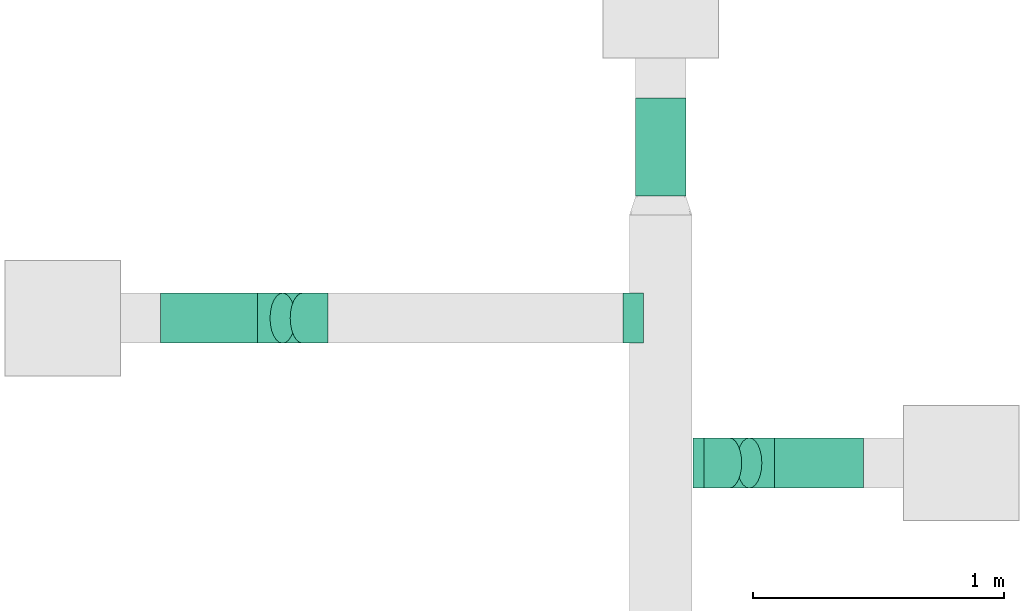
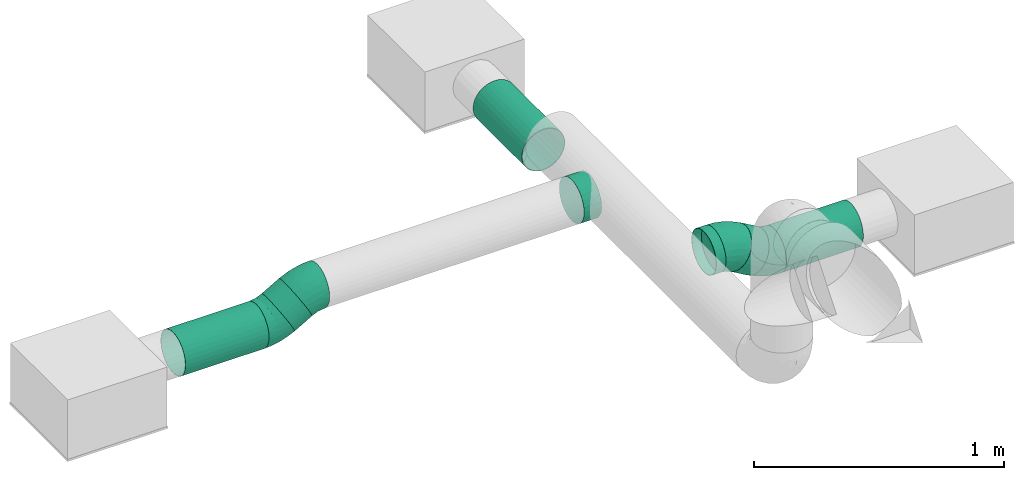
# One storey, part 23 of 31: 6 flow segments, 5 flow fittings.
"""IFC2X3 building model written with IfcOpenShell, lengths in millimetres."""

import ifcopenshell
import ifcopenshell.guid

model = None  # the IFC model being written
_history = None  # IfcOwnerHistory: only IFC2X3 demands one
_inside = {}  # id of a spatial element -> (the spatial element, [elements in it])
_under = {}  # id of a project, library or spatial element -> (it, [spatial elements below it])
_declared = {}  # id of a project -> (the project, [libraries it declares])
_typed = {}  # id of a type object -> (the type object, [elements of that type])
_made_of = {}  # id of a material, layer set ... -> (it, [elements and type objects made of it])


def new_model(schema):
    """Start an empty IFC model of exactly this schema.

    Asked for "IFC4X3", IfcOpenShell would pick the latest addendum, in which some entities
    have other attributes; the version numbers below select the first issue.
    IFC2X3 requires an IfcOwnerHistory on every rooted entity: one is made here for all.
    """
    global model, _history
    if schema == "IFC4X3":
        model = ifcopenshell.file(schema_version=(4, 3, 0, 0))
    else:
        model = ifcopenshell.file(schema=schema)
    _inside.clear()
    _under.clear()
    _declared.clear()
    _typed.clear()
    _made_of.clear()
    _history = None
    if model.schema == "IFC2X3":
        org = make("IfcOrganization", Name="unknown")
        user = make(
            "IfcPersonAndOrganization",
            ThePerson=make("IfcPerson", FamilyName="unknown"),
            TheOrganization=org,
        )
        app = make(
            "IfcApplication",
            ApplicationDeveloper=org,
            Version="unknown",
            ApplicationFullName="unknown",
            ApplicationIdentifier="unknown",
        )
        _history = make(
            "IfcOwnerHistory",
            OwningUser=user,
            OwningApplication=app,
            ChangeAction="ADDED",
            CreationDate=0,
        )
    return model


def make(cls, **values):
    """One entity of the class cls with the attributes given. An attribute that is None is left unset."""
    return model.create_entity(
        cls, **{name: value for name, value in values.items() if value is not None}
    )


def entity(cls, *values):
    """Any entity or typed value of the class cls, its attributes in the order of the schema. None: left unset."""
    e = model.create_entity(cls)
    for i, value in enumerate(values):
        if value is not None:
            e[i] = value
    return e


def rooted(cls, **values):
    """An entity with a GlobalId (a new one), such as an element, a storey or a relation."""
    return make(cls, GlobalId=ifcopenshell.guid.new(), OwnerHistory=_history, **values)


def si_unit(unit_type, name, prefix=None):
    """IfcSIUnit, for example si_unit("LENGTHUNIT", "METRE", prefix="MILLI")."""
    return make("IfcSIUnit", UnitType=unit_type, Prefix=prefix, Name=name)


def converted_unit(unit_type, name, factor, base, dimensions=None, offset=None):
    """IfcConversionBasedUnit, such as the inch: factor (a typed value) times the base unit."""
    return make(
        "IfcConversionBasedUnit"
        if offset is None
        else "IfcConversionBasedUnitWithOffset",
        ConversionOffset=offset,
        Dimensions=None
        if dimensions is None
        else entity("IfcDimensionalExponents", *dimensions),
        UnitType=unit_type,
        Name=name,
        ConversionFactor=make(
            "IfcMeasureWithUnit", ValueComponent=factor, UnitComponent=base
        ),
    )


def derived_unit(unit_type, elements):
    """IfcDerivedUnit: a product of units, each with its exponent."""
    return make(
        "IfcDerivedUnit",
        Elements=[
            make("IfcDerivedUnitElement", Unit=unit, Exponent=power)
            for unit, power in elements
        ],
        UnitType=unit_type,
    )


def assignment(units):
    """IfcUnitAssignment: the units of a project."""
    return None if units is None else make("IfcUnitAssignment", Units=units)


def point(xyz):
    """IfcCartesianPoint."""
    return None if xyz is None else make("IfcCartesianPoint", Coordinates=xyz)


def direction(xyz):
    """IfcDirection."""
    return None if xyz is None else make("IfcDirection", DirectionRatios=xyz)


def frame(location, z_axis=None, x_axis=None):
    """IfcAxis2Placement3D, a coordinate frame: its origin and axes. An axis left out is left unset."""
    return make(
        "IfcAxis2Placement3D",
        Location=point(location),
        Axis=direction(z_axis),
        RefDirection=direction(x_axis),
    )


def frame_2d(location, x_axis=None):
    """IfcAxis2Placement2D, a coordinate frame in the plane: its origin and x axis."""
    return make(
        "IfcAxis2Placement2D", Location=point(location), RefDirection=direction(x_axis)
    )


def origin_with_axes():
    """The frame at (0, 0, 0) with the z axis (0, 0, 1) and the x axis (1, 0, 0) written out."""
    return frame((0.0, 0.0, 0.0), z_axis=(0.0, 0.0, 1.0), x_axis=(1.0, 0.0, 0.0))


def origin_2d_with_axis():
    """The frame at (0, 0) in the plane with the x axis (1, 0) written out."""
    return frame_2d((0.0, 0.0), x_axis=(1.0, 0.0))


def place(relative_to, where):
    """IfcLocalPlacement: puts the frame where relative to a parent placement (None: the world)."""
    return make(
        "IfcLocalPlacement", PlacementRelTo=relative_to, RelativePlacement=where
    )


def context(
    kind, dimensions, precision=None, world=None, true_north=None, identifier=None
):
    """IfcGeometricRepresentationContext, for example the 3D "Model" context."""
    return make(
        "IfcGeometricRepresentationContext",
        ContextIdentifier=identifier,
        ContextType=kind,
        CoordinateSpaceDimension=dimensions,
        Precision=precision,
        WorldCoordinateSystem=world,
        TrueNorth=true_north,
    )


def subcontext(parent, identifier, kind, view, scale=None):
    """IfcGeometricRepresentationSubContext, for example "Body" below "Model"."""
    return make(
        "IfcGeometricRepresentationSubContext",
        ContextIdentifier=identifier,
        ContextType=kind,
        ParentContext=parent,
        TargetScale=scale,
        TargetView=view,
    )


def project(units=None, contexts=None):
    """IfcProject with its units and contexts."""
    return rooted(
        "IfcProject",
        Name="project",
        RepresentationContexts=contexts,
        UnitsInContext=assignment(units),
    )


def spatial(cls, under=None, at=None, **own):
    """A site, building, storey or space (cls), placed at a placement, below another one or the project."""
    s = rooted(cls, ObjectPlacement=at, **own)
    if under is not None:
        _under.setdefault(under.id(), (under, []))[1].append(s)
    return s


def profile(cls, at=None, kind="AREA", **sizes):
    """A parametric profile (cls). Its sizes go by their IFC names, for example OverallWidth=200.0."""
    return make(cls, ProfileType=kind, Position=at, **sizes)


def hollow_circle(**sizes):
    """IfcCircleHollowProfileDef."""
    return profile("IfcCircleHollowProfileDef", **sizes)


def extrude(swept, where, along, depth):
    """IfcExtrudedAreaSolid: the profile swept, set in the frame where, extruded along a direction by depth."""
    return make(
        "IfcExtrudedAreaSolid",
        SweptArea=swept,
        Position=where,
        ExtrudedDirection=direction(along),
        Depth=depth,
    )


def faces_of(points, faces, orient=None, outer=None):
    """IfcFace entities. A face is a list of loops; a loop is a list of indices into points, from 0.

    orient and outer hold one flag for each loop. By default every Orientation is true, the
    first loop of a face is its IfcFaceOuterBound and the others are IfcFaceBound.
    """
    made = []
    for i, loops in enumerate(faces):
        bounds = []
        for j, loop in enumerate(loops):
            is_outer = j == 0 if outer is None else outer[i][j]
            bounds.append(
                make(
                    "IfcFaceOuterBound" if is_outer else "IfcFaceBound",
                    Bound=make("IfcPolyLoop", Polygon=[points[k] for k in loop]),
                    Orientation=True if orient is None else orient[i][j],
                )
            )
        made.append(make("IfcFace", Bounds=bounds))
    return made


def open_shell(faces, orient=None, outer=None):
    """The faces of one IfcOpenShell. surface_model builds it on its shared points."""
    return ("IfcOpenShell", faces, orient, outer)


def surface_model(cls, points, shells):
    """IfcFaceBasedSurfaceModel or IfcShellBasedSurfaceModel (cls): surfaces that need not close."""
    shared = [point(p) for p in points]
    made = [make(c, CfsFaces=faces_of(shared, fs, o, b)) for c, fs, o, b in shells]
    if cls == "IfcFaceBasedSurfaceModel":
        return make(cls, FbsmFaces=made)
    return make(cls, SbsmBoundary=made)


def shape(context_of_items, identifier, shape_type, items):
    """IfcShapeRepresentation: the items that make up one representation, for example the "Body"."""
    return make(
        "IfcShapeRepresentation",
        ContextOfItems=context_of_items,
        RepresentationIdentifier=identifier,
        RepresentationType=shape_type,
        Items=items,
    )


def source(mapping_origin, context_of_items, identifier, shape_type, items):
    """IfcRepresentationMap: a shape defined once, which mapped items show again and again."""
    return make(
        "IfcRepresentationMap",
        MappingOrigin=mapping_origin,
        MappedRepresentation=shape(context_of_items, identifier, shape_type, items),
    )


def transform(
    local_origin,
    x_axis=None,
    y_axis=None,
    z_axis=None,
    scale=None,
    scale2=None,
    scale3=None,
    uniform=True,
):
    """IfcCartesianTransformationOperator3D, or its non-uniform kind. x_axis, y_axis, z_axis: its Axis1, 2, 3."""
    if uniform:
        return make(
            "IfcCartesianTransformationOperator3D",
            Axis1=direction(x_axis),
            Axis2=direction(y_axis),
            LocalOrigin=point(local_origin),
            Scale=scale,
            Axis3=direction(z_axis),
        )
    return make(
        "IfcCartesianTransformationOperator3DnonUniform",
        Axis1=direction(x_axis),
        Axis2=direction(y_axis),
        LocalOrigin=point(local_origin),
        Scale=scale,
        Axis3=direction(z_axis),
        Scale2=scale2,
        Scale3=scale3,
    )


def mapped(mapping_source, mapping_target):
    """IfcMappedItem: shows the shape of a source again, moved by a transform."""
    return make(
        "IfcMappedItem", MappingSource=mapping_source, MappingTarget=mapping_target
    )


def made_of(thing, what):
    """Note that an element or type object is made of a material, layer set ...; save() writes the relation."""
    if what is not None:
        _made_of.setdefault(what.id(), (what, []))[1].append(thing)
    return thing


def type_object(cls, material=None, **own):
    """A type object (cls), such as IfcWallType, which elements share."""
    return made_of(rooted(cls, **own), material)


def element(
    cls,
    number,
    at=None,
    inside=None,
    cuts=None,
    type_object=None,
    material=None,
    context=None,
    identifier="Body",
    shape_type=None,
    held_by="IfcProductDefinitionShape",
    body=None,
    shapes=None,
    **own,
):
    """One element of the class cls, such as IfcWall. Its Tag is "e" and its number.

    at: its placement. inside: the storey or other place that contains it. cuts: it is an
    opening in that element (IfcRelVoidsElement). A single representation is given by context,
    identifier, shape_type and body (its items); several are given by shapes. held_by: the class
    of the entity that holds the representations. save() writes the other relations.
    """
    e = rooted(cls, Tag="e%d" % number, ObjectPlacement=at, **own)
    if body is not None:
        shapes = [shape(context, identifier, shape_type, body)]
    if shapes is not None:
        e.Representation = make(held_by, Representations=shapes)
    if inside is not None:
        _inside.setdefault(inside.id(), (inside, []))[1].append(e)
    if cuts is not None:
        rooted(
            "IfcRelVoidsElement", RelatingBuildingElement=cuts, RelatedOpeningElement=e
        )
    if type_object is not None:
        _typed.setdefault(type_object.id(), (type_object, []))[1].append(e)
    return made_of(e, material)


def aggregate(whole, parts):
    """IfcRelAggregates: a whole, such as a stair, and the parts it consists of."""
    return rooted("IfcRelAggregates", RelatingObject=whole, RelatedObjects=parts)


def save(model, path):
    """Write the relations noted so far, then the file.

    IfcRelAggregates (storeys below a building ...), IfcRelContainedInSpatialStructure (elements
    in a storey), IfcRelDefinesByType, IfcRelAssociatesMaterial and IfcRelDeclares: one each for
    every whole, place, type object, material and project.
    """
    for whole, parts in _under.values():
        aggregate(whole, parts)
    for where, things in _inside.values():
        rooted(
            "IfcRelContainedInSpatialStructure",
            RelatedElements=things,
            RelatingStructure=where,
        )
    for kind, things in _typed.values():
        rooted("IfcRelDefinesByType", RelatedObjects=things, RelatingType=kind)
    for what, things in _made_of.values():
        rooted("IfcRelAssociatesMaterial", RelatedObjects=things, RelatingMaterial=what)
    for by, libraries in _declared.values():
        rooted("IfcRelDeclares", RelatingContext=by, RelatedDefinitions=libraries)
    model.write(path)


model = new_model("IFC2X3")

# Units and contexts
model_context = context("Model", 3, precision=0.01, world=frame((0.0, 4.29681676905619e-09, 0.0)), true_north=direction((4.01073788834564e-13, 1.0)))
plan_context = context("Plan", 3, precision=0.01, world=frame((0.0, 4.29681676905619e-09, 0.0)), true_north=direction((4.01073788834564e-13, 1.0)))
body_context = subcontext(model_context, "Body", "Model", "MODEL_VIEW")
ifc_project = project(units=[converted_unit("PLANEANGLEUNIT", "DEGREE", entity("IfcPositiveLengthMeasure", 0.0174532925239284), si_unit("PLANEANGLEUNIT", "RADIAN"), dimensions=[0, 0, 0, 0, 0, 0, 0]), si_unit("AREAUNIT", "SQUARE_METRE"), si_unit("LENGTHUNIT", "METRE", prefix="MILLI"), si_unit("MASSUNIT", "GRAM", prefix="KILO"), si_unit("POWERUNIT", "WATT"), si_unit("PRESSUREUNIT", "PASCAL", prefix="KILO"), si_unit("FORCEUNIT", "NEWTON", prefix="KILO"), si_unit("ELECTRICVOLTAGEUNIT", "VOLT"), si_unit("ELECTRICCURRENTUNIT", "AMPERE"), si_unit("THERMODYNAMICTEMPERATUREUNIT", "DEGREE_CELSIUS"), si_unit("TIMEUNIT", "SECOND"), si_unit("VOLUMEUNIT", "CUBIC_METRE"), derived_unit("LINEARVELOCITYUNIT", [(si_unit("LENGTHUNIT", "METRE"), 1), (si_unit("TIMEUNIT", "SECOND"), -1)]), derived_unit("VOLUMETRICFLOWRATEUNIT", [(si_unit("VOLUMEUNIT", "CUBIC_METRE"), 1), (si_unit("TIMEUNIT", "SECOND"), -1)]), derived_unit("THERMALTRANSMITTANCEUNIT", [(si_unit("POWERUNIT", "WATT"), 1), (si_unit("THERMODYNAMICTEMPERATUREUNIT", "KELVIN"), -1), (si_unit("AREAUNIT", "SQUARE_METRE"), -1)]), derived_unit("SOUNDPRESSUREUNIT", [(si_unit("PRESSUREUNIT", "PASCAL"), 1)])], contexts=[model_context, plan_context])

# Site, building, storey
site_placement = place(None, frame((0.0, -4.29681676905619e-09, 0.0), z_axis=(0.0, 0.0, 1.0), x_axis=(1.0, 0.0, 0.0)))
site = spatial("IfcSite", under=ifc_project, at=site_placement, CompositionType="ELEMENT")
building_placement = place(site_placement, frame((0.0, 4.29681676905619e-09, 0.0), z_axis=(0.0, 0.0, 1.0), x_axis=(1.0, 0.0, 0.0)))
building = spatial("IfcBuilding", under=site, at=building_placement, Name="mc-building", CompositionType="ELEMENT")
storey_placement = place(building_placement, frame((0.0, 0.0, 210900.0), z_axis=(0.0, 0.0, 1.0), x_axis=(1.0, 0.0, 0.0)))
storey = spatial("IfcBuildingStorey", under=building, at=storey_placement, Name="Nivå F", CompositionType="ELEMENT", Elevation=210900.0)

# Flow fittings
duct_fitting_type_1 = type_object("IfcDuctFittingType", Name="magicirc_tapoutlet_001", PredefinedType="CONNECTOR")
shared_shape_1 = source(origin_with_axes(), body_context, "Body", "SurfaceModel", [
    surface_model("IfcShellBasedSurfaceModel", [(25.0, 0.0, -100.0), (25.0, -50.0, -86.60254), (25.0, -25.8819, -96.59259), (-56.096, 100.0, 0.0), (-56.096, 96.59259, -25.8819), (-56.096, 96.59259, 25.8819), (0.0, -25.8819, 96.59259), (0.0, 0.0, 100.0), (-56.096, 0.0, 100.0), (-56.096, -100.0, 0.0), (0.0, -100.0, 0.0), (0.0, -96.59259, 25.8819), (-56.096, -96.59259, 25.8819), (0.0, -86.60254, 50.0), (-56.096, -86.60254, 50.0), (-56.096, -70.71068, -70.71068), (0.0, -70.71068, -70.71068), (-56.096, -86.60254, -50.0), (-56.096, 86.60254, -50.0), (0.0, 70.71068, -70.71068), (-56.096, 70.71068, -70.71068), (0.0, 96.59259, 25.8819), (0.0, 100.0, 0.0), (0.0, 86.60254, 50.0), (-56.096, 86.60254, 50.0), (0.0, 25.8819, 96.59259), (25.0, -100.0, 0.0), (25.0, -96.59259, -25.8819), (25.0, -96.59259, 25.8819), (25.0, 25.8819, -96.59259), (25.0, 100.0, 0.0), (25.0, 50.0, -86.60254), (25.0, 70.71068, -70.71068), (25.0, 86.60254, -50.0), (25.0, -70.71068, -70.71068), (25.0, -86.60254, -50.0), (25.0, 96.59259, -25.8819), (25.0, 96.59259, 25.8819), (25.0, 86.60254, 50.0), (25.0, 70.71068, 70.71068), (25.0, 25.8819, 96.59259), (25.0, 50.0, 86.60254), (25.0, -25.8819, 96.59259), (25.0, -70.71068, 70.71068), (25.0, -86.60254, 50.0), (25.0, -50.0, 86.60254), (25.0, 0.0, 100.0), (0.0, 50.0, 86.60254), (0.0, 70.71068, 70.71068), (0.0, 96.59259, -25.8819), (0.0, 86.60254, -50.0), (0.0, 25.8819, -96.59259), (0.0, 50.0, -86.60254), (0.0, 0.0, -100.0), (0.0, -25.8819, -96.59259), (0.0, -50.0, -86.60254), (0.0, -86.60254, -50.0), (0.0, -96.59259, -25.8819), (0.0, -70.71068, 70.71068), (0.0, -50.0, 86.60254), (-56.096, 0.0, -100.0), (-56.096, -25.8819, -96.59259), (-56.096, 25.8819, -96.59259), (-56.096, 50.0, -86.60254), (-56.096, -50.0, -86.60254), (-56.096, -96.59259, -25.8819), (-56.096, 70.71068, 70.71068), (-56.096, 50.0, 86.60254), (-56.096, 25.8819, 96.59259), (-56.096, -70.71068, 70.71068), (-56.096, -25.8819, 96.59259), (-56.096, -50.0, 86.60254)], [open_shell([[[0, 1, 2]], [[3, 4, 5]], [[6, 7, 8]], [[9, 10, 11]], [[12, 11, 13]], [[14, 12, 13]], [[15, 16, 17]], [[18, 19, 20]], [[21, 22, 3]], [[23, 21, 5]], [[23, 5, 24]], [[8, 7, 25]], [[26, 27, 28]], [[29, 30, 0]], [[31, 30, 29]], [[30, 32, 33]], [[30, 31, 32]], [[34, 0, 28]], [[0, 34, 1]], [[35, 28, 27]], [[28, 35, 34]], [[30, 33, 36]], [[37, 38, 0]], [[38, 39, 0]], [[40, 0, 41]], [[0, 39, 41]], [[0, 40, 42]], [[0, 43, 44]], [[28, 0, 44]], [[0, 45, 43]], [[42, 45, 0]], [[40, 46, 42]], [[37, 0, 30]], [[7, 46, 40]], [[25, 40, 41]], [[7, 40, 25]], [[47, 39, 48]], [[47, 25, 41]], [[39, 47, 41]], [[23, 38, 37]], [[21, 37, 30]], [[48, 38, 23]], [[21, 23, 37]], [[22, 21, 30]], [[38, 48, 39]], [[22, 30, 36]], [[49, 36, 33]], [[22, 36, 49]], [[50, 32, 19]], [[50, 49, 33]], [[32, 50, 33]], [[29, 0, 51]], [[31, 29, 52]], [[19, 31, 52]], [[53, 51, 0]], [[29, 51, 52]], [[31, 19, 32]], [[53, 0, 2]], [[54, 2, 1]], [[53, 2, 54]], [[55, 34, 16]], [[55, 54, 1]], [[34, 55, 1]], [[56, 35, 27]], [[57, 27, 26]], [[16, 35, 56]], [[57, 56, 27]], [[10, 57, 26]], [[35, 16, 34]], [[10, 26, 28]], [[11, 28, 44]], [[10, 28, 11]], [[13, 43, 58]], [[13, 11, 44]], [[43, 13, 44]], [[59, 45, 42]], [[6, 42, 46]], [[58, 45, 59]], [[6, 59, 42]], [[7, 6, 46]], [[45, 58, 43]], [[38, 0, 37]], [[0, 38, 41]], [[41, 38, 39]], [[42, 0, 40]], [[0, 44, 28]], [[43, 44, 0]], [[43, 0, 45]], [[60, 61, 62]], [[62, 5, 63]], [[18, 20, 5]], [[5, 20, 63]], [[62, 9, 12]], [[15, 9, 64]], [[62, 61, 64]], [[65, 9, 17]], [[15, 17, 9]], [[64, 9, 62]], [[4, 18, 5]], [[24, 5, 62]], [[62, 66, 24]], [[67, 62, 68]], [[67, 66, 62]], [[8, 68, 62]], [[14, 69, 62]], [[62, 12, 14]], [[70, 8, 71]], [[62, 69, 71]], [[71, 8, 62]], [[68, 25, 47]], [[8, 25, 68]], [[67, 48, 66]], [[67, 68, 47]], [[48, 67, 47]], [[66, 23, 24]], [[3, 5, 21]], [[23, 66, 48]], [[3, 22, 49]], [[4, 49, 50]], [[3, 49, 4]], [[18, 4, 50]], [[19, 18, 50]], [[62, 52, 51]], [[60, 51, 53]], [[20, 52, 63]], [[62, 63, 52]], [[60, 62, 51]], [[52, 20, 19]], [[60, 53, 54]], [[61, 54, 55]], [[60, 54, 61]], [[64, 16, 15]], [[64, 61, 55]], [[16, 64, 55]], [[65, 56, 57]], [[9, 57, 10]], [[65, 17, 56]], [[57, 9, 65]], [[17, 16, 56]], [[9, 11, 12]], [[14, 58, 69]], [[58, 14, 13]], [[59, 6, 71]], [[71, 69, 59]], [[70, 71, 6]], [[6, 8, 70]], [[59, 69, 58]]])]),
])
flow_fitting_placement = place(storey_placement, frame((725459.4603, 442768.69981, 3065.0), z_axis=(0.0, 0.0, -1.0), x_axis=(-1.0, 0.0, 0.0)))
element("IfcFlowFitting", 1, at=flow_fitting_placement, inside=storey, type_object=duct_fitting_type_1, Name="magicirc_tapoutlet_001", context=body_context, shape_type="MappedRepresentation", body=[
    mapped(shared_shape_1, transform((0.0, 0.0, 0.0), scale=1.0)),
])
duct_fitting_type_2 = type_object("IfcDuctFittingType", Name="magicirc_elbow_full_radius_001", PredefinedType="BEND")
shared_shape_2 = source(origin_with_axes(), body_context, "Body", "SurfaceModel", [
    surface_model("IfcShellBasedSurfaceModel", [(-53.58984, 25.8819, -96.59259), (-53.58984, 0.0, -100.0), (-53.58984, 96.59259, -25.8819), (-53.58984, 50.0, -86.60254), (-53.58984, 86.60254, -50.0), (-53.58984, 70.71068, -70.71068), (-53.58984, -70.71068, -70.71068), (-53.58984, -50.0, -86.60254), (-53.58984, -25.8819, -96.59259), (-53.58984, -86.60254, -50.0), (-53.58984, -96.59259, -25.8819), (-53.58984, -50.0, 86.60254), (-53.58984, -100.0, 0.0), (-53.58984, -96.59259, 25.8819), (-53.58984, 96.59259, 25.8819), (-53.58984, 100.0, 0.0), (-53.58984, 25.8819, 96.59259), (-53.58984, 86.60254, 50.0), (-53.58984, 70.71068, 70.71068), (-53.58984, 50.0, 86.60254), (-53.58984, -86.60254, 50.0), (-53.58984, -70.71068, 70.71068), (-53.58984, -25.8819, 96.59259), (-53.58984, 0.0, 100.0), (59.35111, 4.38053, -96.59259), (81.7655, -34.44232, -70.71068), (71.41016, -16.50635, -86.60254), (21.41016, 70.09619, 86.60254), (3.10889, 101.79492, 50.0), (11.05482, 88.03216, 70.71068), (94.70646, -56.85671, 25.8819), (81.7655, -34.44232, 70.71068), (89.71143, -48.20508, 50.0), (71.41016, -16.50635, 86.60254), (-20.59989, -78.4808, 59.42497), (-6.27347, -89.53266, 35.79654), (19.32938, -72.13823, 57.60956), (-19.61921, -96.42939, 17.98423), (-1.49539, -95.44233, 0.0), (59.35111, 4.38053, 96.59259), (41.95138, -19.8052, 91.79416), (-8.43881, -58.92793, 77.79301), (-26.42837, -38.12749, 91.79416), (8.9168, -33.27794, 90.9789), (-13.06302, -11.53965, 98.80915), (-4.43079, 16.53593, 99.49229), (46.41016, 26.79492, 100.0), (33.46921, 49.20931, 96.59259), (57.08043, -57.66643, 59.42497), (-18.26896, 40.00811, 93.23502), (-17.06674, 63.69394, 80.82381), (18.48128, -89.43484, 18.50461), (50.19932, -74.40083, 35.79654), (38.79765, -45.96174, 77.86923), (-22.00407, 82.12031, 62.62533), (-25.53884, 95.31225, 40.07381), (-27.2174, 101.57672, 19.37686), (65.20543, -73.70069, 17.98423), (49.0162, -81.90778, 0.0), (24.60964, -0.18303, 98.88147), (96.41016, -59.80762, 0.0), (-1.88613, 110.44655, 25.8819), (-27.70793, 103.40741, 0.0), (-3.58984, 113.39746, 0.0), (-21.22106, -12.46333, -98.88147), (-19.61921, -96.42939, -17.98423), (28.71216, -86.69348, -18.50461), (36.77219, -46.81367, -77.793), (-4.43079, 16.53592, -99.49229), (-25.53884, 95.31225, -40.0738), (-22.00407, 82.12031, -62.62533), (50.19932, -74.40083, -35.79653), (65.20543, -73.70069, -17.98423), (-17.06675, 63.69393, -80.82381), (89.71143, -48.20508, -50.0), (94.70646, -56.85671, -25.8819), (-27.2174, 101.57672, -19.37686), (46.41016, 26.79492, -100.0), (17.08274, -3.46212, -98.80915), (21.41016, 70.09619, -86.60254), (33.46921, 49.20931, -96.59259), (-4.18268, 43.78252, -93.23502), (3.10889, 101.79492, -50.0), (11.05482, 88.03216, -70.71068), (-20.59988, -78.48081, -59.42497), (-6.27347, -89.53266, -35.79653), (-10.61888, -59.20285, -77.86923), (19.32938, -72.13823, -57.60956), (-26.42837, -38.1275, -91.79416), (8.9168, -33.27794, -90.9789), (57.08043, -57.66643, -59.42497), (-1.88613, 110.44655, -25.8819), (41.95138, -19.8052, -91.79416)], [open_shell([[[0, 1, 2]], [[3, 0, 2]], [[2, 4, 5]], [[3, 2, 5]], [[6, 2, 1]], [[7, 6, 8]], [[6, 1, 8]], [[9, 10, 6]], [[11, 6, 10]], [[10, 12, 13]], [[2, 6, 11]], [[14, 15, 16]], [[17, 14, 18]], [[14, 16, 19]], [[18, 14, 19]], [[11, 16, 15]], [[20, 21, 13]], [[11, 13, 21]], [[10, 13, 11]], [[11, 22, 16]], [[22, 23, 16]], [[15, 2, 11]], [[24, 25, 26]], [[27, 28, 29]], [[30, 31, 32]], [[31, 30, 33]], [[34, 35, 36]], [[37, 12, 38]], [[33, 39, 40]], [[11, 21, 41]], [[42, 41, 43]], [[34, 21, 20]], [[13, 37, 35]], [[22, 11, 42]], [[23, 44, 45]], [[46, 47, 45]], [[32, 31, 48]], [[23, 22, 44]], [[45, 16, 23]], [[19, 49, 50]], [[35, 37, 51]], [[36, 35, 52]], [[27, 29, 50]], [[50, 18, 19]], [[36, 48, 53]], [[54, 17, 18]], [[14, 17, 55]], [[34, 41, 21]], [[56, 15, 14]], [[19, 16, 49]], [[57, 30, 52]], [[58, 57, 51]], [[59, 45, 44]], [[33, 53, 31]], [[54, 55, 17]], [[59, 39, 46]], [[35, 34, 20]], [[52, 32, 48]], [[45, 59, 46]], [[41, 53, 43]], [[43, 59, 44]], [[60, 30, 57]], [[41, 34, 36]], [[28, 61, 55]], [[53, 33, 40]], [[62, 15, 56]], [[20, 13, 35]], [[62, 56, 63]], [[43, 40, 59]], [[61, 56, 55]], [[50, 54, 18]], [[50, 29, 54]], [[16, 45, 49]], [[28, 55, 54]], [[47, 49, 45]], [[47, 27, 49]], [[49, 27, 50]], [[36, 53, 41]], [[29, 28, 54]], [[30, 32, 52]], [[53, 48, 31]], [[42, 44, 22]], [[52, 48, 36]], [[55, 56, 14]], [[63, 56, 61]], [[41, 42, 11]], [[44, 42, 43]], [[59, 40, 39]], [[53, 40, 43]], [[12, 37, 13]], [[51, 37, 38]], [[58, 51, 38]], [[52, 35, 51]], [[51, 57, 52]], [[60, 57, 58]], [[8, 1, 64]], [[38, 65, 66]], [[26, 25, 67]], [[0, 68, 1]], [[4, 69, 70]], [[71, 72, 66]], [[5, 73, 3]], [[74, 75, 71]], [[69, 2, 76]], [[77, 24, 78]], [[79, 80, 81]], [[3, 81, 0]], [[12, 10, 65]], [[68, 64, 1]], [[82, 83, 70]], [[84, 85, 9]], [[7, 86, 6]], [[87, 84, 86]], [[9, 85, 10]], [[6, 84, 9]], [[88, 7, 8]], [[89, 88, 64]], [[87, 86, 67]], [[73, 70, 83]], [[15, 62, 76]], [[71, 90, 74]], [[63, 91, 76]], [[70, 69, 82]], [[75, 72, 71]], [[69, 4, 2]], [[5, 4, 70]], [[68, 78, 64]], [[79, 81, 73]], [[89, 67, 86]], [[3, 73, 81]], [[73, 83, 79]], [[73, 5, 70]], [[68, 80, 77]], [[92, 24, 26]], [[87, 71, 85]], [[74, 90, 25]], [[89, 92, 67]], [[90, 67, 25]], [[78, 68, 77]], [[87, 90, 71]], [[86, 7, 88]], [[58, 72, 60]], [[91, 82, 69]], [[0, 81, 68]], [[85, 65, 10]], [[92, 78, 24]], [[80, 68, 81]], [[86, 84, 6]], [[15, 76, 2]], [[85, 84, 87]], [[89, 64, 78]], [[67, 90, 87]], [[63, 76, 62]], [[69, 76, 91]], [[64, 88, 8]], [[86, 88, 89]], [[67, 92, 26]], [[78, 92, 89]], [[60, 72, 75]], [[66, 72, 58]], [[38, 66, 58]], [[85, 71, 66]], [[66, 65, 85]], [[12, 65, 38]], [[91, 77, 80]], [[82, 80, 79]], [[82, 91, 80]], [[82, 79, 83]], [[24, 77, 25]], [[63, 61, 28]], [[27, 47, 28]], [[47, 39, 33]], [[46, 39, 47]], [[63, 25, 77]], [[25, 30, 74]], [[30, 75, 74]], [[75, 30, 60]], [[91, 63, 77]], [[30, 63, 28]], [[30, 28, 47]], [[33, 30, 47]], [[63, 30, 25]]])]),
])
for number, where, z_axis, x_axis, name in (
    (2, (725984.07539, 442191.19778, 2965.0), (0.0, 1.0, 0.0), (-1.0, 0.0, 0.0), "magicirc_elbow_full_radius_001"),
    (3, (725810.8703, 442191.19778, 3065.0), (0.0, -1.0, 0.0), (-0.866025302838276, 0.0, 0.500000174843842), "magicirc_elbow_full_radius_001"),
    (4, (724030.52987, 442768.69981, 2965.0), (0.0, -1.0, 0.0), (1.0, 0.0, 0.0), "magicirc_elbow_full_radius_001"),
    (5, (724203.73495, 442768.69981, 3065.0), (0.0, 1.0, 0.0), (0.866025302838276, 0.0, 0.500000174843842), "magicirc_elbow_full_radius_001"),
):
    element("IfcFlowFitting", number, at=place(storey_placement, frame(where, z_axis=z_axis, x_axis=x_axis)), inside=storey, type_object=duct_fitting_type_2, Name=name, context=body_context, shape_type="MappedRepresentation", body=[
        mapped(shared_shape_2, transform((0.0, 0.0, 0.0), scale=1.0)),
    ])

# Flow segments
duct_segment_type = type_object("IfcDuctSegmentType", Name="KK001T - Spiro kanaler, Forsinket stål", PredefinedType="RIGIDSEGMENT")
shared_shape_3 = source(origin_with_axes(), body_context, "Body", "SweptSolid", [
    extrude(hollow_circle(Radius=100.0, WallThickness=2.0, at=origin_2d_with_axis()), frame((0.0, 0.0, 0.0), z_axis=(1.0, 0.0, 0.0), x_axis=(0.0, 1.0, 0.0)), (0.0, 0.0, 1.0), 355.0),
])
flow_segment_1_placement = place(storey_placement, frame((726392.6381, 442191.19778, 2965.0), z_axis=(0.0, 0.0, 1.0), x_axis=(-1.0, 0.0, 0.0)))
element("IfcFlowSegment", 6, at=flow_segment_1_placement, inside=storey, type_object=duct_segment_type, Name="KK001T - Spiro kanaler, Forsinket stål", context=body_context, shape_type="MappedRepresentation", body=[
    mapped(shared_shape_3, transform((0.0, 0.0, 0.0), scale=1.0)),
])
shared_shape_4 = source(origin_with_axes(), body_context, "Body", "SweptSolid", [
    extrude(hollow_circle(Radius=100.0, WallThickness=2.0, at=origin_2d_with_axis()), frame((0.0, 0.0, 0.0), z_axis=(1.0, 0.0, 0.0), x_axis=(0.0, 1.0, 0.0)), (0.0, 0.0, 1.0), 44.6),
])
flow_segment_2_placement = place(storey_placement, frame((725757.28047, 442191.19778, 3065.0), z_axis=(0.0, 0.0, 1.0), x_axis=(-1.0, 0.0, 0.0)))
element("IfcFlowSegment", 7, at=flow_segment_2_placement, inside=storey, type_object=duct_segment_type, Name="KK001T - Spiro kanaler, Forsinket stål", context=body_context, shape_type="MappedRepresentation", body=[
    mapped(shared_shape_4, transform((0.0, 0.0, 0.0), scale=1.0)),
])
shared_shape_5 = source(origin_with_axes(), body_context, "Body", "SweptSolid", [
    extrude(hollow_circle(Radius=100.0, WallThickness=2.0, at=origin_2d_with_axis()), frame((0.0, 0.0, 0.0), z_axis=(1.0, 0.0, 0.0), x_axis=(0.0, 1.0, 0.0)), (0.0, 0.0, 1.0), 92.8),
])
for number, where, z_axis, x_axis in (
    (8, (725937.66523, 442191.19778, 2991.79491999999), (0.500000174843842, 0.0, 0.866025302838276), (-0.866025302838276, 0.0, 0.500000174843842)),
    (9, (724076.94003, 442768.69981, 2991.79491999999), (-0.500000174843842, 0.0, 0.866025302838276), (0.866025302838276, 0.0, 0.500000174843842)),
):
    element("IfcFlowSegment", number, at=place(storey_placement, frame(where, z_axis=z_axis, x_axis=x_axis)), inside=storey, type_object=duct_segment_type, Name="KK001T - Spiro kanaler, Forsinket stål", context=body_context, shape_type="MappedRepresentation", body=[
        mapped(shared_shape_5, transform((0.0, 0.0, 0.0), scale=1.0)),
    ])
shared_shape_6 = source(origin_with_axes(), body_context, "Body", "SweptSolid", [
    extrude(hollow_circle(Radius=100.0, WallThickness=2.0, at=origin_2d_with_axis()), frame((0.0, 0.0, 0.0), z_axis=(1.0, 0.0, 0.0), x_axis=(0.0, 1.0, 0.0)), (0.0, 0.0, 1.0), 391.3),
])
flow_segment_3_placement = place(storey_placement, frame((725584.4603, 443254.97238, 2965.0), z_axis=(0.0, 0.0, 1.0), x_axis=(0.0, 1.0, 0.0)))
element("IfcFlowSegment", 10, at=flow_segment_3_placement, inside=storey, type_object=duct_segment_type, Name="KK001T - Spiro kanaler, Forsinket stål", context=body_context, shape_type="MappedRepresentation", body=[
    mapped(shared_shape_6, transform((0.0, 0.0, 0.0), scale=1.0)),
])
shared_shape_7 = source(origin_with_axes(), body_context, "Body", "SweptSolid", [
    extrude(hollow_circle(Radius=100.0, WallThickness=2.0, at=origin_2d_with_axis()), frame((0.0, 0.0, 0.0), z_axis=(1.0, 0.0, 0.0), x_axis=(0.0, 1.0, 0.0)), (0.0, 0.0, 1.0), 386.4),
])
flow_segment_4_placement = place(storey_placement, frame((723590.52987, 442768.69981, 2965.0), z_axis=(0.0, 0.0, 1.0), x_axis=(1.0, 0.0, 0.0)))
element("IfcFlowSegment", 11, at=flow_segment_4_placement, inside=storey, type_object=duct_segment_type, Name="KK001T - Spiro kanaler, Forsinket stål", context=body_context, shape_type="MappedRepresentation", body=[
    mapped(shared_shape_7, transform((0.0, 0.0, 0.0), scale=1.0)),
])

save(model, "model.ifc")
